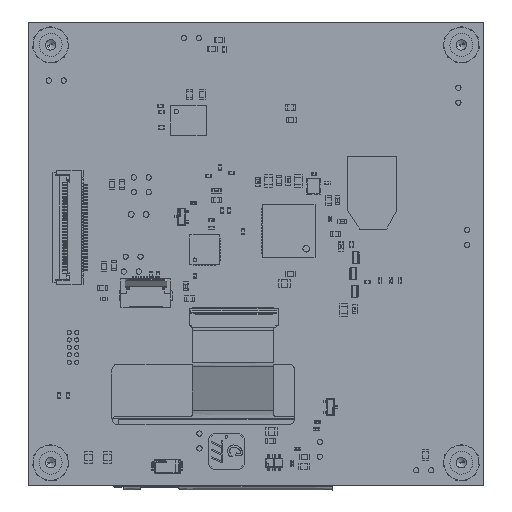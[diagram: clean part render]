
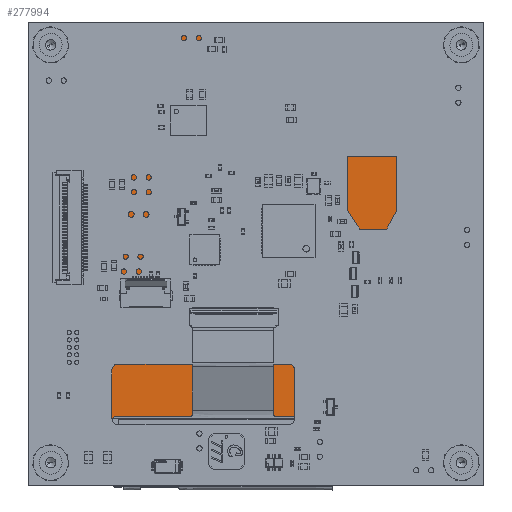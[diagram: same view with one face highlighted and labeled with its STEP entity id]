
A CAD part, top view. The second image highlights one B-rep face of the part: STEP entity #277994.
In plain terms, the highlighted planar face has unit normal (0, 0, 1) as drawn and (0, 0, -1) by its records, which use the part's own axes.
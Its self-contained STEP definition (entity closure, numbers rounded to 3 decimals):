
#427 = ORIENTED_EDGE ( 'NONE', *, *, #134869, .F. ) ;
#12479 = CARTESIAN_POINT ( 'NONE',  ( 0., 0., 0. ) ) ;
#14595 = PLANE ( 'NONE',  #249897 ) ;
#32457 = ORIENTED_EDGE ( 'NONE', *, *, #241028, .F. ) ;
#47667 = VERTEX_POINT ( 'NONE', #387083 ) ;
#52091 = LINE ( 'NONE', #121207, #243439 ) ;
#52233 = ORIENTED_EDGE ( 'NONE', *, *, #409468, .F. ) ;
#56280 = CARTESIAN_POINT ( 'NONE',  ( -37.83, 39.485, 0. ) ) ;
#60227 = CIRCLE ( 'NONE', #321707, 1. ) ;
#64931 = VECTOR ( 'NONE', #369146, 1000. ) ;
#68332 = AXIS2_PLACEMENT_3D ( 'NONE', #377222, #109025, #269140 ) ;
#70710 = CARTESIAN_POINT ( 'NONE',  ( 0., -39.485, 0. ) ) ;
#74263 = DIRECTION ( 'NONE',  ( 1., 0., 0. ) ) ;
#84606 = CARTESIAN_POINT ( 'NONE',  ( 37.83, -39.485, 0. ) ) ;
#84630 = EDGE_CURVE ( 'NONE', #47667, #317087, #52091, .T. ) ;
#89421 = VERTEX_POINT ( 'NONE', #84606 ) ;
#93038 = DIRECTION ( 'NONE',  ( 0., -1., 0. ) ) ;
#109025 = DIRECTION ( 'NONE',  ( 0., 0., 1. ) ) ;
#113970 = VECTOR ( 'NONE', #138819, 1000. ) ;
#121207 = CARTESIAN_POINT ( 'NONE',  ( -38.83, 0., 0. ) ) ;
#122822 = DIRECTION ( 'NONE',  ( 1., 0., 0. ) ) ;
#123926 = VERTEX_POINT ( 'NONE', #158607 ) ;
#134869 = EDGE_CURVE ( 'NONE', #89421, #320285, #60227, .T. ) ;
#136984 = LINE ( 'NONE', #268905, #182867 ) ;
#137996 = CARTESIAN_POINT ( 'NONE',  ( 37.83, -38.485, 0. ) ) ;
#138819 = DIRECTION ( 'NONE',  ( 0., -1., 0. ) ) ;
#143096 = LINE ( 'NONE', #169209, #113970 ) ;
#146537 = DIRECTION ( 'NONE',  ( 1., 0., 0. ) ) ;
#147702 = ORIENTED_EDGE ( 'NONE', *, *, #382496, .F. ) ;
#155565 = VERTEX_POINT ( 'NONE', #353731 ) ;
#158607 = CARTESIAN_POINT ( 'NONE',  ( 37.83, 39.485, 0. ) ) ;
#160406 = ORIENTED_EDGE ( 'NONE', *, *, #269722, .T. ) ;
#169209 = CARTESIAN_POINT ( 'NONE',  ( 38.83, 0., 0. ) ) ;
#182867 = VECTOR ( 'NONE', #74263, 1000. ) ;
#188339 = CIRCLE ( 'NONE', #209000, 1. ) ;
#198493 = AXIS2_PLACEMENT_3D ( 'NONE', #252640, #287191, #122822 ) ;
#198925 = DIRECTION ( 'NONE',  ( 1., 0., 0. ) ) ;
#203195 = CARTESIAN_POINT ( 'NONE',  ( -37.83, -38.485, 0. ) ) ;
#209000 = AXIS2_PLACEMENT_3D ( 'NONE', #203195, #239864, #198925 ) ;
#239864 = DIRECTION ( 'NONE',  ( 0., 0., 1. ) ) ;
#241028 = EDGE_CURVE ( 'NONE', #271602, #123926, #405735, .T. ) ;
#242777 = CARTESIAN_POINT ( 'NONE',  ( 38.83, 38.485, 0. ) ) ;
#243439 = VECTOR ( 'NONE', #93038, 1000. ) ;
#249897 = AXIS2_PLACEMENT_3D ( 'NONE', #12479, #377962, #146537 ) ;
#252640 = CARTESIAN_POINT ( 'NONE',  ( 37.83, 38.485, 0. ) ) ;
#262869 = EDGE_LOOP ( 'NONE', ( #160406, #32457, #406843, #427, #361203, #52233, #401192, #147702 ) ) ;
#268905 = CARTESIAN_POINT ( 'NONE',  ( 0., 39.485, 0. ) ) ;
#269140 = DIRECTION ( 'NONE',  ( 1., 0., 0. ) ) ;
#269722 = EDGE_CURVE ( 'NONE', #309671, #123926, #136984, .T. ) ;
#271602 = VERTEX_POINT ( 'NONE', #242777 ) ;
#277994 = ADVANCED_FACE ( 'NONE', ( #336990 ), #14595, .F. ) ;
#287191 = DIRECTION ( 'NONE',  ( 0., 0., 1. ) ) ;
#305398 = CARTESIAN_POINT ( 'NONE',  ( -38.83, -38.485, 0. ) ) ;
#309671 = VERTEX_POINT ( 'NONE', #56280 ) ;
#317087 = VERTEX_POINT ( 'NONE', #305398 ) ;
#320285 = VERTEX_POINT ( 'NONE', #415859 ) ;
#321707 = AXIS2_PLACEMENT_3D ( 'NONE', #137996, #380137, #347703 ) ;
#332457 = LINE ( 'NONE', #70710, #64931 ) ;
#336990 = FACE_OUTER_BOUND ( 'NONE', #262869, .T. ) ;
#337380 = EDGE_CURVE ( 'NONE', #271602, #320285, #143096, .T. ) ;
#347703 = DIRECTION ( 'NONE',  ( 1., 0., 0. ) ) ;
#353731 = CARTESIAN_POINT ( 'NONE',  ( -37.83, -39.485, 0. ) ) ;
#355628 = EDGE_CURVE ( 'NONE', #155565, #89421, #332457, .T. ) ;
#361203 = ORIENTED_EDGE ( 'NONE', *, *, #355628, .F. ) ;
#369146 = DIRECTION ( 'NONE',  ( 1., 0., 0. ) ) ;
#372421 = CIRCLE ( 'NONE', #68332, 1. ) ;
#377222 = CARTESIAN_POINT ( 'NONE',  ( -37.83, 38.485, 0. ) ) ;
#377962 = DIRECTION ( 'NONE',  ( 0., 0., 1. ) ) ;
#380137 = DIRECTION ( 'NONE',  ( 0., 0., 1. ) ) ;
#382496 = EDGE_CURVE ( 'NONE', #309671, #47667, #372421, .T. ) ;
#387083 = CARTESIAN_POINT ( 'NONE',  ( -38.83, 38.485, 0. ) ) ;
#401192 = ORIENTED_EDGE ( 'NONE', *, *, #84630, .F. ) ;
#405735 = CIRCLE ( 'NONE', #198493, 1. ) ;
#406843 = ORIENTED_EDGE ( 'NONE', *, *, #337380, .T. ) ;
#409468 = EDGE_CURVE ( 'NONE', #317087, #155565, #188339, .T. ) ;
#415859 = CARTESIAN_POINT ( 'NONE',  ( 38.83, -38.485, 0. ) ) ;
